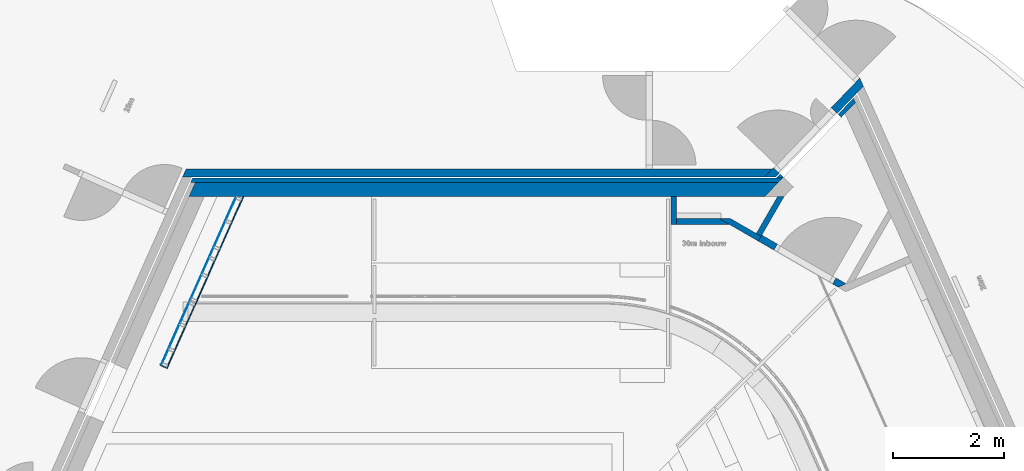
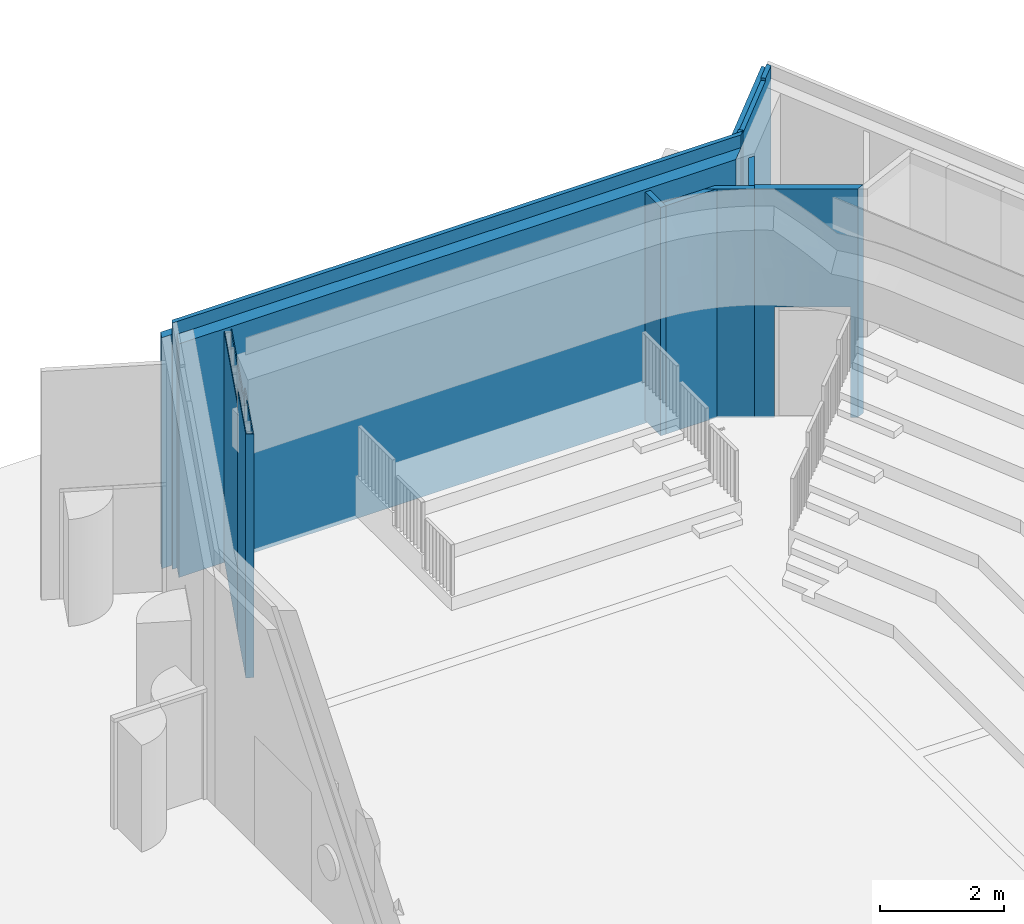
# One storey, part 10 of 19: 17 walls, 9 openings.
"""IFC2X3 building model written with IfcOpenShell, lengths in millimetres."""

import ifcopenshell
import ifcopenshell.guid

model = None  # the IFC model being written
_history = None  # IfcOwnerHistory: only IFC2X3 demands one
_inside = {}  # id of a spatial element -> (the spatial element, [elements in it])
_under = {}  # id of a project, library or spatial element -> (it, [spatial elements below it])
_declared = {}  # id of a project -> (the project, [libraries it declares])
_typed = {}  # id of a type object -> (the type object, [elements of that type])
_made_of = {}  # id of a material, layer set ... -> (it, [elements and type objects made of it])


def new_model(schema):
    """Start an empty IFC model of exactly this schema.

    Asked for "IFC4X3", IfcOpenShell would pick the latest addendum, in which some entities
    have other attributes; the version numbers below select the first issue.
    IFC2X3 requires an IfcOwnerHistory on every rooted entity: one is made here for all.
    """
    global model, _history
    if schema == "IFC4X3":
        model = ifcopenshell.file(schema_version=(4, 3, 0, 0))
    else:
        model = ifcopenshell.file(schema=schema)
    _inside.clear()
    _under.clear()
    _declared.clear()
    _typed.clear()
    _made_of.clear()
    _history = None
    if model.schema == "IFC2X3":
        org = make("IfcOrganization", Name="unknown")
        user = make(
            "IfcPersonAndOrganization",
            ThePerson=make("IfcPerson", FamilyName="unknown"),
            TheOrganization=org,
        )
        app = make(
            "IfcApplication",
            ApplicationDeveloper=org,
            Version="unknown",
            ApplicationFullName="unknown",
            ApplicationIdentifier="unknown",
        )
        _history = make(
            "IfcOwnerHistory",
            OwningUser=user,
            OwningApplication=app,
            ChangeAction="ADDED",
            CreationDate=0,
        )
    return model


def make(cls, **values):
    """One entity of the class cls with the attributes given. An attribute that is None is left unset."""
    return model.create_entity(
        cls, **{name: value for name, value in values.items() if value is not None}
    )


def entity(cls, *values):
    """Any entity or typed value of the class cls, its attributes in the order of the schema. None: left unset."""
    e = model.create_entity(cls)
    for i, value in enumerate(values):
        if value is not None:
            e[i] = value
    return e


def rooted(cls, **values):
    """An entity with a GlobalId (a new one), such as an element, a storey or a relation."""
    return make(cls, GlobalId=ifcopenshell.guid.new(), OwnerHistory=_history, **values)


def si_unit(unit_type, name, prefix=None):
    """IfcSIUnit, for example si_unit("LENGTHUNIT", "METRE", prefix="MILLI")."""
    return make("IfcSIUnit", UnitType=unit_type, Prefix=prefix, Name=name)


def converted_unit(unit_type, name, factor, base, dimensions=None, offset=None):
    """IfcConversionBasedUnit, such as the inch: factor (a typed value) times the base unit."""
    return make(
        "IfcConversionBasedUnit"
        if offset is None
        else "IfcConversionBasedUnitWithOffset",
        ConversionOffset=offset,
        Dimensions=None
        if dimensions is None
        else entity("IfcDimensionalExponents", *dimensions),
        UnitType=unit_type,
        Name=name,
        ConversionFactor=make(
            "IfcMeasureWithUnit", ValueComponent=factor, UnitComponent=base
        ),
    )


def derived_unit(unit_type, elements):
    """IfcDerivedUnit: a product of units, each with its exponent."""
    return make(
        "IfcDerivedUnit",
        Elements=[
            make("IfcDerivedUnitElement", Unit=unit, Exponent=power)
            for unit, power in elements
        ],
        UnitType=unit_type,
    )


def assignment(units):
    """IfcUnitAssignment: the units of a project."""
    return None if units is None else make("IfcUnitAssignment", Units=units)


def point(xyz):
    """IfcCartesianPoint."""
    return None if xyz is None else make("IfcCartesianPoint", Coordinates=xyz)


def direction(xyz):
    """IfcDirection."""
    return None if xyz is None else make("IfcDirection", DirectionRatios=xyz)


def frame(location, z_axis=None, x_axis=None):
    """IfcAxis2Placement3D, a coordinate frame: its origin and axes. An axis left out is left unset."""
    return make(
        "IfcAxis2Placement3D",
        Location=point(location),
        Axis=direction(z_axis),
        RefDirection=direction(x_axis),
    )


def frame_2d(location, x_axis=None):
    """IfcAxis2Placement2D, a coordinate frame in the plane: its origin and x axis."""
    return make(
        "IfcAxis2Placement2D", Location=point(location), RefDirection=direction(x_axis)
    )


def origin():
    """The frame at (0, 0, 0) with its axes left unset."""
    return frame((0.0, 0.0, 0.0))


def origin_2d_with_axis():
    """The frame at (0, 0) in the plane with the x axis (1, 0) written out."""
    return frame_2d((0.0, 0.0), x_axis=(1.0, 0.0))


def place(relative_to, where):
    """IfcLocalPlacement: puts the frame where relative to a parent placement (None: the world)."""
    return make(
        "IfcLocalPlacement", PlacementRelTo=relative_to, RelativePlacement=where
    )


def context(
    kind, dimensions, precision=None, world=None, true_north=None, identifier=None
):
    """IfcGeometricRepresentationContext, for example the 3D "Model" context."""
    return make(
        "IfcGeometricRepresentationContext",
        ContextIdentifier=identifier,
        ContextType=kind,
        CoordinateSpaceDimension=dimensions,
        Precision=precision,
        WorldCoordinateSystem=world,
        TrueNorth=true_north,
    )


def subcontext(parent, identifier, kind, view, scale=None):
    """IfcGeometricRepresentationSubContext, for example "Body" below "Model"."""
    return make(
        "IfcGeometricRepresentationSubContext",
        ContextIdentifier=identifier,
        ContextType=kind,
        ParentContext=parent,
        TargetScale=scale,
        TargetView=view,
    )


def project(units=None, contexts=None):
    """IfcProject with its units and contexts."""
    return rooted(
        "IfcProject",
        Name="project",
        RepresentationContexts=contexts,
        UnitsInContext=assignment(units),
    )


def spatial(cls, under=None, at=None, **own):
    """A site, building, storey or space (cls), placed at a placement, below another one or the project."""
    s = rooted(cls, ObjectPlacement=at, **own)
    if under is not None:
        _under.setdefault(under.id(), (under, []))[1].append(s)
    return s


def polyline(points):
    """IfcPolyline through the points."""
    return make("IfcPolyline", Points=[point(p) for p in points])


def profile(cls, at=None, kind="AREA", **sizes):
    """A parametric profile (cls). Its sizes go by their IFC names, for example OverallWidth=200.0."""
    return make(cls, ProfileType=kind, Position=at, **sizes)


def rectangle(**sizes):
    """IfcRectangleProfileDef."""
    return profile("IfcRectangleProfileDef", **sizes)


def outline(outer, holes=None, kind="AREA"):
    """IfcArbitraryClosedProfileDef: a profile drawn as a closed curve; with holes, ...WithVoids."""
    if holes is None:
        return make("IfcArbitraryClosedProfileDef", ProfileType=kind, OuterCurve=outer)
    return make(
        "IfcArbitraryProfileDefWithVoids",
        ProfileType=kind,
        OuterCurve=outer,
        InnerCurves=holes,
    )


def extrude(swept, where, along, depth):
    """IfcExtrudedAreaSolid: the profile swept, set in the frame where, extruded along a direction by depth."""
    return make(
        "IfcExtrudedAreaSolid",
        SweptArea=swept,
        Position=where,
        ExtrudedDirection=direction(along),
        Depth=depth,
    )


def clip(a, b, op="DIFFERENCE"):
    """IfcBooleanClippingResult: the solid a cut by the half space b."""
    return make(
        "IfcBooleanClippingResult", Operator=op, FirstOperand=a, SecondOperand=b
    )


def halfspace(plane, agree):
    """IfcHalfSpaceSolid: all space on one side of the plane z = 0 of the frame plane."""
    return make(
        "IfcHalfSpaceSolid",
        BaseSurface=make("IfcPlane", Position=plane),
        AgreementFlag=agree,
    )


def faces_of(points, faces, orient=None, outer=None):
    """IfcFace entities. A face is a list of loops; a loop is a list of indices into points, from 0.

    orient and outer hold one flag for each loop. By default every Orientation is true, the
    first loop of a face is its IfcFaceOuterBound and the others are IfcFaceBound.
    """
    made = []
    for i, loops in enumerate(faces):
        bounds = []
        for j, loop in enumerate(loops):
            is_outer = j == 0 if outer is None else outer[i][j]
            bounds.append(
                make(
                    "IfcFaceOuterBound" if is_outer else "IfcFaceBound",
                    Bound=make("IfcPolyLoop", Polygon=[points[k] for k in loop]),
                    Orientation=True if orient is None else orient[i][j],
                )
            )
        made.append(make("IfcFace", Bounds=bounds))
    return made


def faceted_brep(points, faces, orient=None, outer=None, voids=None):
    """IfcFacetedBrep: a solid bounded by flat faces; with voids (closed shells), ...WithVoids."""
    shared = [point(p) for p in points]
    hull = make("IfcClosedShell", CfsFaces=faces_of(shared, faces, orient, outer))
    if voids is None:
        return make("IfcFacetedBrep", Outer=hull)
    return make(
        "IfcFacetedBrepWithVoids",
        Outer=hull,
        Voids=[
            make(cls, CfsFaces=faces_of(shared, fs, o, b)) for cls, fs, o, b in voids
        ],
    )


def shape(context_of_items, identifier, shape_type, items):
    """IfcShapeRepresentation: the items that make up one representation, for example the "Body"."""
    return make(
        "IfcShapeRepresentation",
        ContextOfItems=context_of_items,
        RepresentationIdentifier=identifier,
        RepresentationType=shape_type,
        Items=items,
    )


def material(Name=None, Category=None):
    """IfcMaterial."""
    return make("IfcMaterial", Name=Name, Category=Category)


def layer(
    of_material, thickness, ventilated=None, Name=None, Category=None, Priority=None
):
    """IfcMaterialLayer: one layer of a wall or slab, of a material (None: an air gap)."""
    return make(
        "IfcMaterialLayer",
        Material=of_material,
        LayerThickness=thickness,
        IsVentilated=ventilated,
        Name=Name,
        Category=Category,
        Priority=Priority,
    )


def layer_set(layers, Name=None):
    """IfcMaterialLayerSet."""
    return make("IfcMaterialLayerSet", MaterialLayers=layers, LayerSetName=Name)


def layer_usage(for_layer_set, set_direction, sense, offset, extent=None):
    """IfcMaterialLayerSetUsage: how a layer set lies in its element."""
    return make(
        "IfcMaterialLayerSetUsage",
        ForLayerSet=for_layer_set,
        LayerSetDirection=set_direction,
        DirectionSense=sense,
        OffsetFromReferenceLine=offset,
        ReferenceExtent=extent,
    )


def made_of(thing, what):
    """Note that an element or type object is made of a material, layer set ...; save() writes the relation."""
    if what is not None:
        _made_of.setdefault(what.id(), (what, []))[1].append(thing)
    return thing


def type_object(cls, material=None, **own):
    """A type object (cls), such as IfcWallType, which elements share."""
    return made_of(rooted(cls, **own), material)


def element(
    cls,
    number,
    at=None,
    inside=None,
    cuts=None,
    type_object=None,
    material=None,
    context=None,
    identifier="Body",
    shape_type=None,
    held_by="IfcProductDefinitionShape",
    body=None,
    shapes=None,
    **own,
):
    """One element of the class cls, such as IfcWall. Its Tag is "e" and its number.

    at: its placement. inside: the storey or other place that contains it. cuts: it is an
    opening in that element (IfcRelVoidsElement). A single representation is given by context,
    identifier, shape_type and body (its items); several are given by shapes. held_by: the class
    of the entity that holds the representations. save() writes the other relations.
    """
    e = rooted(cls, Tag="e%d" % number, ObjectPlacement=at, **own)
    if body is not None:
        shapes = [shape(context, identifier, shape_type, body)]
    if shapes is not None:
        e.Representation = make(held_by, Representations=shapes)
    if inside is not None:
        _inside.setdefault(inside.id(), (inside, []))[1].append(e)
    if cuts is not None:
        rooted(
            "IfcRelVoidsElement", RelatingBuildingElement=cuts, RelatedOpeningElement=e
        )
    if type_object is not None:
        _typed.setdefault(type_object.id(), (type_object, []))[1].append(e)
    return made_of(e, material)


def aggregate(whole, parts):
    """IfcRelAggregates: a whole, such as a stair, and the parts it consists of."""
    return rooted("IfcRelAggregates", RelatingObject=whole, RelatedObjects=parts)


def save(model, path):
    """Write the relations noted so far, then the file.

    IfcRelAggregates (storeys below a building ...), IfcRelContainedInSpatialStructure (elements
    in a storey), IfcRelDefinesByType, IfcRelAssociatesMaterial and IfcRelDeclares: one each for
    every whole, place, type object, material and project.
    """
    for whole, parts in _under.values():
        aggregate(whole, parts)
    for where, things in _inside.values():
        rooted(
            "IfcRelContainedInSpatialStructure",
            RelatedElements=things,
            RelatingStructure=where,
        )
    for kind, things in _typed.values():
        rooted("IfcRelDefinesByType", RelatedObjects=things, RelatingType=kind)
    for what, things in _made_of.values():
        rooted("IfcRelAssociatesMaterial", RelatedObjects=things, RelatingMaterial=what)
    for by, libraries in _declared.values():
        rooted("IfcRelDeclares", RelatingContext=by, RelatedDefinitions=libraries)
    model.write(path)


model = new_model("IFC2X3")

# Units and contexts
model_context = context("Model", 3, precision=0.01, world=origin(), true_north=direction((6.123031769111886e-17, 1.0)))
body_context = subcontext(model_context, "Body", "Model", "MODEL_VIEW")
ifc_project = project(units=[si_unit("LENGTHUNIT", "METRE", prefix="MILLI"), si_unit("AREAUNIT", "SQUARE_METRE"), si_unit("VOLUMEUNIT", "CUBIC_METRE"), converted_unit("PLANEANGLEUNIT", "DEGREE", entity("IfcRatioMeasure", 0.017453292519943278), si_unit("PLANEANGLEUNIT", "RADIAN"), dimensions=[0, 0, 0, 0, 0, 0, 0]), si_unit("MASSUNIT", "GRAM", prefix="KILO"), derived_unit("MASSDENSITYUNIT", [(si_unit("MASSUNIT", "GRAM", prefix="KILO"), 1), (si_unit("LENGTHUNIT", "METRE"), -3)]), derived_unit("MOMENTOFINERTIAUNIT", [(si_unit("LENGTHUNIT", "METRE"), 4)]), si_unit("TIMEUNIT", "SECOND"), si_unit("FREQUENCYUNIT", "HERTZ"), si_unit("THERMODYNAMICTEMPERATUREUNIT", "DEGREE_CELSIUS"), derived_unit("THERMALTRANSMITTANCEUNIT", [(si_unit("MASSUNIT", "GRAM", prefix="KILO"), 1), (si_unit("THERMODYNAMICTEMPERATUREUNIT", "KELVIN"), -1), (si_unit("TIMEUNIT", "SECOND"), -3)]), derived_unit("VOLUMETRICFLOWRATEUNIT", [(si_unit("LENGTHUNIT", "METRE"), 3), (si_unit("TIMEUNIT", "SECOND"), -1)]), derived_unit("MASSFLOWRATEUNIT", [(si_unit("MASSUNIT", "GRAM", prefix="KILO"), 1), (si_unit("TIMEUNIT", "SECOND"), -1)]), derived_unit("ROTATIONALFREQUENCYUNIT", [(si_unit("TIMEUNIT", "SECOND"), -1)]), si_unit("ELECTRICCURRENTUNIT", "AMPERE"), si_unit("ELECTRICVOLTAGEUNIT", "VOLT"), si_unit("POWERUNIT", "WATT"), si_unit("FORCEUNIT", "NEWTON", prefix="KILO"), si_unit("ILLUMINANCEUNIT", "LUX"), si_unit("LUMINOUSFLUXUNIT", "LUMEN"), si_unit("LUMINOUSINTENSITYUNIT", "CANDELA"), derived_unit("USERDEFINED", [(si_unit("MASSUNIT", "GRAM", prefix="KILO"), -1), (si_unit("LENGTHUNIT", "METRE"), -2), (si_unit("TIMEUNIT", "SECOND"), 3), (si_unit("LUMINOUSFLUXUNIT", "LUMEN"), 1)]), derived_unit("SOUNDPOWERUNIT", [(si_unit("MASSUNIT", "GRAM", prefix="KILO"), 1), (si_unit("LENGTHUNIT", "METRE"), 2), (si_unit("TIMEUNIT", "SECOND"), -3)]), derived_unit("SOUNDPRESSUREUNIT", [(si_unit("MASSUNIT", "GRAM", prefix="KILO"), 1), (si_unit("LENGTHUNIT", "METRE"), -1), (si_unit("TIMEUNIT", "SECOND"), -2)]), derived_unit("LINEARVELOCITYUNIT", [(si_unit("LENGTHUNIT", "METRE"), 1), (si_unit("TIMEUNIT", "SECOND"), -1)]), si_unit("PRESSUREUNIT", "PASCAL"), derived_unit("USERDEFINED", [(si_unit("LENGTHUNIT", "METRE"), -2), (si_unit("MASSUNIT", "GRAM", prefix="KILO"), 1), (si_unit("TIMEUNIT", "SECOND"), -2)]), derived_unit("LINEARFORCEUNIT", [(si_unit("MASSUNIT", "GRAM", prefix="KILO"), 1), (si_unit("LENGTHUNIT", "METRE"), 1), (si_unit("TIMEUNIT", "SECOND"), -2), (si_unit("LENGTHUNIT", "METRE"), -1)]), derived_unit("PLANARFORCEUNIT", [(si_unit("MASSUNIT", "GRAM", prefix="KILO"), 1), (si_unit("LENGTHUNIT", "METRE"), 1), (si_unit("TIMEUNIT", "SECOND"), -2), (si_unit("LENGTHUNIT", "METRE"), -2)])], contexts=[model_context])

# Site, building, storey
site_placement = place(None, frame((-10000.0, -10000.0, 0.0)))
site = spatial("IfcSite", under=ifc_project, at=site_placement, Name="Default", CompositionType="ELEMENT")
building_placement = place(site_placement, origin())
building = spatial("IfcBuilding", under=site, at=building_placement, CompositionType="ELEMENT")
storey_placement = place(building_placement, frame((0.0, 0.0, 4200.0)))
storey = spatial("IfcBuildingStorey", under=building, at=storey_placement, Name="01 1e verdieping", CompositionType="ELEMENT", Elevation=4200.000000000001)

# Wall
ifc_material_1 = material(Name="NLRS_beton ihwg")
ifc_layer_1 = layer(ifc_material_1, 250.00000000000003)
ifc_layer_set_1 = layer_set([ifc_layer_1], Name="Basic Wall:NLRS_21_WA_beton 250mm_ags")
ifc_layer_usage_1 = layer_usage(ifc_layer_set_1, "AXIS2", "NEGATIVE", 125.00000000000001)
wall_type_1 = type_object("IfcWallType", Name="Basic Wall:NLRS_21_WA_beton 250mm_ags", PredefinedType="STANDARD", material=ifc_layer_set_1)
wall_1_placement = place(storey_placement, frame((28023.813445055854, 49277.0, -50.0)))
element("IfcWallStandardCase", 1, at=wall_1_placement, inside=storey, type_object=wall_type_1, material=ifc_layer_usage_1, Name="Basic Wall:NLRS_21_WA_beton 250mm_ags", ObjectType="Basic Wall:NLRS_21_WA_beton 250mm_ags", context=body_context, shape_type="SweptSolid", body=[
    extrude(outline(polyline([(10375.04271520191, -125.0), (10616.272859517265, 125.0), (111.30717132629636, 125.0), (0.0, -125.0), (273.65906962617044, -125.0), (10375.04271520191, -125.0)])), origin(), (0.0, 0.0, 1.0), 4599.999999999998),
])

# Wall, opening
ifc_material_2 = material(Name="NLRS_kalkzandsteen")
ifc_layer_2 = layer(ifc_material_2, 150.0)
ifc_layer_set_2 = layer_set([ifc_layer_2], Name="Basic Wall:NLRS_22_WA_kalkzandsteen 150mm_ags")
ifc_layer_usage_2 = layer_usage(ifc_layer_set_2, "AXIS2", "NEGATIVE", 75.0)
wall_type_2 = type_object("IfcWallType", Name="Basic Wall:NLRS_22_WA_kalkzandsteen 150mm_ags", PredefinedType="STANDARD", material=ifc_layer_set_2)
wall_2_placement = place(storey_placement, frame((27905.984415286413, 49577.0, -50.0)))
wall_2 = element("IfcWallStandardCase", 2, at=wall_2_placement, inside=storey, type_object=wall_type_2, material=ifc_layer_usage_2, Name="Basic Wall:NLRS_22_WA_kalkzandsteen 150mm_ags", ObjectType="Basic Wall:NLRS_22_WA_kalkzandsteen 150mm_ags", context=body_context, shape_type="SweptSolid", body=[
    extrude(outline(polyline([(10483.29713118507, -75.0), (10628.035217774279, 75.0), (66.78430279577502, 75.0), (0.0, -75.0), (164.19544177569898, -75.0), (10483.29713118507, -75.0)])), origin(), (0.0, 0.0, 1.0), 4549.999999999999),
])
opening_1_placement = place(wall_2_placement, frame((10828.260893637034, -258.00997500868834, 0.0)))
element("IfcOpeningElement", 3, at=opening_1_placement, cuts=wall_2, Name="Basic Wall:NLRS_22_WA_kalkzandsteen 150mm_ags", ObjectType="Opening", context=body_context, shape_type="Brep", body=[
    faceted_brep([(187.1574804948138, 0.0, 2220.0), (1225.7189008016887, 1076.3180356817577, 2220.0), (1111.6089162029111, 1332.6132573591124, 2220.0), (0.0, 180.59210411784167, 2220.0), (187.1574804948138, 0.0, 0.0), (0.0, 180.59210411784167, 0.0), (1111.6089162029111, 1332.6132573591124, 0.0), (1225.7189008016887, 1076.3180356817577, 0.0)], [[[0, 1, 2, 3]], [[4, 5, 6, 7]], [[1, 0, 4, 7]], [[2, 1, 7, 6]], [[3, 2, 6, 5]], [[0, 3, 5, 4]]]),
])

# Wall, openings
ifc_layer_usage_3 = layer_usage(ifc_layer_set_2, "AXIS2", "NEGATIVE", 75.0)
wall_3_placement = place(storey_placement, frame((38443.25274487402, 49449.92208008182, -50.0), z_axis=(0.0, 0.0, 1.0), x_axis=(0.6943722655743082, 0.7196159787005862, 0.0)))
wall_3 = element("IfcWallStandardCase", 4, at=wall_3_placement, inside=storey, type_object=wall_type_2, material=ifc_layer_usage_3, Name="Basic Wall:NLRS_22_WA_kalkzandsteen 150mm_ags", ObjectType="Basic Wall:NLRS_22_WA_kalkzandsteen 150mm_ags", context=body_context, shape_type="SweptSolid", body=[
    extrude(outline(polyline([(144.73808658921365, -75.0), (2256.64107445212, -75.0), (2418.447295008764, -75.0), (2479.1206253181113, 75.0), (208.4445099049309, 75.0), (0.0, 75.0), (144.73808658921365, -75.0)])), origin(), (0.0, 0.0, 1.0), 4549.999999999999),
])
opening_2_placement = place(wall_3_placement, origin())
element("IfcOpeningElement", 5, at=opening_2_placement, cuts=wall_3, Name="Basic Wall:NLRS_22_WA_kalkzandsteen 150mm_ags", ObjectType="Opening", context=body_context, shape_type="SweptSolid", body=[
    extrude(rectangle(XDim=2220.0, YDim=1499.7610140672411, at=origin_2d_with_axis()), frame((987.6738377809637, -75.0, 1110.0), z_axis=(0.0, 1.0, 0.0), x_axis=(0.0, 0.0, -1.0)), (0.0, 0.0, 1.0), 150.00000000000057),
])
opening_3_placement = place(wall_3_placement, origin())
element("IfcOpeningElement", 6, at=opening_3_placement, cuts=wall_3, Name="Basic Wall:NLRS_22_WA_kalkzandsteen 150mm_ags", ObjectType="Opening", context=body_context, shape_type="SweptSolid", body=[
    extrude(rectangle(XDim=2220.0, YDim=1499.7610140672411, at=frame_2d((-1.1368683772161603e-12, 0.0), x_axis=(1.0, 0.0))), frame((987.6738377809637, -75.0, 5910.0), z_axis=(0.0, 1.0, 0.0), x_axis=(0.0, 0.0, -1.0)), (0.0, 0.0, 1.0), 150.00000000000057),
])
opening_4_placement = place(wall_3_placement, origin())
element("IfcOpeningElement", 7, at=opening_4_placement, cuts=wall_3, Name="Basic Wall:NLRS_22_WA_kalkzandsteen 150mm_ags", ObjectType="Opening", context=body_context, shape_type="SweptSolid", body=[
    extrude(rectangle(XDim=2170.0, YDim=1499.7610140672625, at=frame_2d((2.2737367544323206e-13, -4.661160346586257e-12), x_axis=(1.0, 0.0))), frame((987.6738377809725, -227.4000000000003, 1135.0), z_axis=(0.0, 1.0, 0.0), x_axis=(0.0, 0.0, 1.0)), (0.0, 0.0, 1.0), 454.79999999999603),
])
opening_5_placement = place(wall_3_placement, frame((107.8363669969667, -300.31848650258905, 0.0)))
element("IfcOpeningElement", 8, at=opening_5_placement, cuts=wall_3, Name="Basic Wall:NLRS_22_WA_kalkzandsteen 150mm_ags", ObjectType="Opening", context=body_context, shape_type="Brep", body=[
    faceted_brep([(129.95696375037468, -134.68151349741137, 2220.0), (1625.6408667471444, -134.68151349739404, 2220.0), (1730.840195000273, 125.39814848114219, 2220.0), (129.95696375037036, 125.39814848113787, 2220.0), (129.95696375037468, -134.68151349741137, 0.0), (129.95696375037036, 125.39814848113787, 0.0), (1730.840195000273, 125.39814848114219, 0.0), (1625.6408667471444, -134.68151349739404, 0.0)], [[[0, 1, 2, 3]], [[4, 5, 6, 7]], [[1, 0, 4, 7]], [[2, 1, 7, 6]], [[3, 2, 6, 5]], [[0, 3, 5, 4]]]),
])

# Wall, opening
ifc_material_3 = material(Name="NLRS_MDF")
ifc_layer_3 = layer(ifc_material_3, 12.5)
ifc_material_4 = material(Name="NLRS_gipsplaat")
ifc_layer_4 = layer(ifc_material_4, 12.5)
ifc_material_5 = material(Name="NLRS_aluminium C-profielen met isolatie")
ifc_layer_5 = layer(ifc_material_5, 75.0)
ifc_layer_6 = layer(ifc_material_4, 12.5)
ifc_layer_7 = layer(ifc_material_4, 12.5)
ifc_layer_set_3 = layer_set([ifc_layer_3, ifc_layer_4, ifc_layer_5, ifc_layer_6, ifc_layer_7], Name="Basic Wall:NLRS_22_WA_ms-wand mdf gips iso gips gips 125mm 25-75-25_ags")
ifc_layer_usage_4 = layer_usage(ifc_layer_set_3, "AXIS2", "NEGATIVE", 62.50000000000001)
wall_type_3 = type_object("IfcWallType", Name="Basic Wall:NLRS_22_WA_ms-wand mdf gips iso gips gips 125mm 25-75-25_ags", PredefinedType="STANDARD", material=ifc_layer_set_3)
wall_4_placement = place(storey_placement, frame((39834.41528747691, 47524.899549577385, 0.0), z_axis=(0.0, 0.0, 1.0), x_axis=(-0.8660254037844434, 0.4999999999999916, 0.0)))
wall_4 = element("IfcWallStandardCase", 9, at=wall_4_placement, inside=storey, type_object=wall_type_3, material=ifc_layer_usage_4, Name="Basic Wall:NLRS_22_WA_ms-wand mdf gips iso gips gips 125mm 25-75-25_ags", ObjectType="Basic Wall:NLRS_22_WA_ms-wand mdf gips iso gips gips 125mm 25-75-25_ags", context=body_context, shape_type="SweptSolid", body=[
    extrude(outline(polyline([(0.0, -62.4999999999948), (1755.9171632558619, -62.499999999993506), (1755.9171632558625, 62.50000000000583), (90.84019254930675, 62.50000000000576), (0.0, -62.4999999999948)])), origin(), (0.0, 0.0, 1.0), 4499.999999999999),
])
opening_6_placement = place(wall_4_placement, origin())
element("IfcOpeningElement", 10, at=opening_6_placement, cuts=wall_4, Name="Basic Wall:NLRS_22_WA_ms-wand mdf gips iso gips gips 125mm 25-75-25_ags", ObjectType="Opening", context=body_context, shape_type="SweptSolid", body=[
    extrude(rectangle(XDim=2170.0, YDim=1219.9999999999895, at=frame_2d((0.0, 2.2737367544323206e-13), x_axis=(0.0, 1.0))), frame((820.917163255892, -214.89999999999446, 1085.0), z_axis=(0.0, 1.0, 0.0), x_axis=(-1.0, 0.0, 0.0)), (0.0, 0.0, 1.0), 429.80000000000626),
])

# Walls
ifc_layer_8 = layer(ifc_material_3, 12.5)
ifc_layer_9 = layer(ifc_material_4, 12.5)
ifc_layer_10 = layer(ifc_material_5, 75.0)
ifc_layer_set_4 = layer_set([ifc_layer_8, ifc_layer_9, ifc_layer_10], Name="Basic Wall:NLRS_22_WA_ms-wand mdf gips iso 100mm 25-75_ags")
ifc_layer_usage_5 = layer_usage(ifc_layer_set_4, "AXIS2", "POSITIVE", -50.0)
wall_type_4 = type_object("IfcWallType", Name="Basic Wall:NLRS_22_WA_ms-wand mdf gips iso 100mm 25-75_ags", PredefinedType="STANDARD", material=ifc_layer_set_4)
wall_5_placement = place(storey_placement, frame((37609.014961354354, 48795.30127018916, 0.0), z_axis=(0.0, 0.0, 1.0), x_axis=(0.8660254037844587, -0.4999999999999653, 0.0)))
element("IfcWallStandardCase", 11, at=wall_5_placement, inside=storey, type_object=wall_type_4, material=ifc_layer_usage_5, Name="Basic Wall:NLRS_22_WA_ms-wand mdf gips iso 100mm 25-75_ags", ObjectType="Basic Wall:NLRS_22_WA_ms-wand mdf gips iso 100mm 25-75_ags", context=body_context, shape_type="SweptSolid", body=[
    extrude(outline(polyline([(806.53691306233, -50.0), (806.5369130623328, 50.0), (706.5369130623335, 50.0), (173.20508075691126, 50.0), (0.0, -50.0), (200.0, -50.0), (806.53691306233, -50.0)])), origin(), (0.0, 0.0, 1.0), 4499.999999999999),
])
ifc_layer_usage_6 = layer_usage(ifc_layer_set_4, "AXIS2", "NEGATIVE", 50.0)
wall_6_placement = place(storey_placement, frame((36760.0, 48652.0, 0.0), z_axis=(0.0, 0.0, 1.0), x_axis=(0.0, 1.0, 0.0)))
element("IfcWallStandardCase", 12, at=wall_6_placement, inside=storey, type_object=wall_type_4, material=ifc_layer_usage_6, Name="Basic Wall:NLRS_22_WA_ms-wand mdf gips iso 100mm 25-75_ags", ObjectType="Basic Wall:NLRS_22_WA_ms-wand mdf gips iso 100mm 25-75_ags", context=body_context, shape_type="SweptSolid", body=[
    extrude(rectangle(XDim=499.999999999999, YDim=99.99999999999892, at=frame_2d((249.9999999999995, 2.1671553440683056e-12), x_axis=(-1.0, 0.0))), origin(), (0.0, 0.0, 1.0), 4499.999999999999),
])
ifc_layer_usage_7 = layer_usage(ifc_layer_set_4, "AXIS2", "NEGATIVE", 50.0)
wall_7_placement = place(storey_placement, frame((37757.22004211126, 48702.0, 0.0), z_axis=(0.0, 0.0, 1.0), x_axis=(-1.0, 0.0, 0.0)))
element("IfcWallStandardCase", 13, at=wall_7_placement, inside=storey, type_object=wall_type_4, material=ifc_layer_usage_7, Name="Basic Wall:NLRS_22_WA_ms-wand mdf gips iso 100mm 25-75_ags", ObjectType="Basic Wall:NLRS_22_WA_ms-wand mdf gips iso 100mm 25-75_ags", context=body_context, shape_type="SweptSolid", body=[
    extrude(outline(polyline([(947.2200421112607, -50.0), (947.2200421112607, 50.0), (0.0, 50.0), (173.20508075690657, -50.0), (947.2200421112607, -50.0)])), origin(), (0.0, 0.0, 1.0), 4499.999999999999),
])
ifc_layer_11 = layer(ifc_material_4, 12.5)
ifc_layer_12 = layer(ifc_material_4, 12.5)
ifc_layer_13 = layer(ifc_material_5, 75.0)
ifc_layer_set_5 = layer_set([ifc_layer_11, ifc_layer_12, ifc_layer_13], Name="Basic Wall:NLRS_22_WA_ms-wand gips iso 100mm 25-75_ags")
ifc_layer_usage_8 = layer_usage(ifc_layer_set_5, "AXIS2", "NEGATIVE", 50.0)
wall_type_5 = type_object("IfcWallType", Name="Basic Wall:NLRS_22_WA_ms-wand gips iso 100mm 25-75_ags", PredefinedType="STANDARD", material=ifc_layer_set_5)
wall_8_placement = place(storey_placement, frame((38702.96240657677, 49177.0, 0.0), z_axis=(0.0, 0.0, 1.0), x_axis=(-0.49999999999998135, -0.8660254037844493, 0.0)))
element("IfcWallStandardCase", 14, at=wall_8_placement, inside=storey, type_object=wall_type_5, material=ifc_layer_usage_8, Name="Basic Wall:NLRS_22_WA_ms-wand gips iso 100mm 25-75_ags", ObjectType="Basic Wall:NLRS_22_WA_ms-wand gips iso 100mm 25-75_ags", context=body_context, shape_type="SweptSolid", body=[
    extrude(outline(polyline([(827.5345192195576, -50.0), (827.534519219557, 50.0), (0.0, 50.0), (57.73502691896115, -50.0), (827.5345192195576, -50.0)])), origin(), (0.0, 0.0, 1.0), 4499.999999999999),
])
ifc_material_6 = material(Name="NLRS_multiplex")
ifc_layer_14 = layer(ifc_material_6, 18.0)
ifc_layer_set_6 = layer_set([ifc_layer_14], Name="Basic Wall:NLRS_42_WA_multiplex 18mm_ags")
ifc_layer_usage_9 = layer_usage(ifc_layer_set_6, "AXIS2", "POSITIVE", -9.000000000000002)
wall_type_6 = type_object("IfcWallType", Name="Basic Wall:NLRS_42_WA_multiplex 18mm_ags", PredefinedType="STANDARD", material=ifc_layer_set_6)
wall_9_placement = place(storey_placement, frame((28481.971512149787, 47985.8447163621, 0.0), z_axis=(0.0, 0.0, 1.0), x_axis=(0.406792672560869, 0.9135205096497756, 0.0)))
element("IfcWallStandardCase", 15, at=wall_9_placement, inside=storey, type_object=wall_type_6, material=ifc_layer_usage_9, Name="Basic Wall:NLRS_42_WA_multiplex 18mm_ags", ObjectType="Basic Wall:NLRS_42_WA_multiplex 18mm_ags", context=body_context, shape_type="SweptSolid", body=[
    extrude(outline(polyline([(1280.5584607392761, -9.0), (1272.5430215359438, 9.0), (0.0, 9.0), (0.0, -9.0), (1280.5584607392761, -9.0)])), origin(), (0.0, 0.0, 1.0), 4499.999999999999),
])
ifc_layer_usage_10 = layer_usage(ifc_layer_set_6, "AXIS2", "NEGATIVE", 9.000000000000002)
wall_10_placement = place(storey_placement, frame((28481.971512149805, 47985.84471636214, 0.0), z_axis=(0.0, 0.0, 1.0), x_axis=(-0.4067926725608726, -0.9135205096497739, 0.0)))
element("IfcWallStandardCase", 16, at=wall_10_placement, inside=storey, type_object=wall_type_6, material=ifc_layer_usage_10, Name="Basic Wall:NLRS_42_WA_multiplex 18mm_ags", ObjectType="Basic Wall:NLRS_42_WA_multiplex 18mm_ags", context=body_context, shape_type="SweptSolid", body=[
    extrude(rectangle(XDim=280.0000000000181, YDim=17.999999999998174, at=frame_2d((140.00000000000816, 6.52811138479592e-13), x_axis=(-1.0, 0.0))), origin(), (0.0, 0.0, 1.0), 4499.999999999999),
])
ifc_layer_usage_11 = layer_usage(ifc_layer_set_6, "AXIS2", "NEGATIVE", 9.000000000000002)
wall_11_placement = place(storey_placement, frame((28368.0843259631, 47730.0524000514, 0.0), z_axis=(0.0, 0.0, 1.0), x_axis=(-0.406792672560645, -0.9135205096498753, 0.0)))
element("IfcWallStandardCase", 17, at=wall_11_placement, inside=storey, type_object=wall_type_6, material=ifc_layer_usage_11, Name="Basic Wall:NLRS_42_WA_multiplex 18mm_ags", ObjectType="Basic Wall:NLRS_42_WA_multiplex 18mm_ags", context=body_context, shape_type="SweptSolid", body=[
    extrude(rectangle(XDim=540.0000000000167, YDim=18.000000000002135, at=frame_2d((270.00000000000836, -7.265299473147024e-13), x_axis=(-1.0, 0.0))), origin(), (0.0, 0.0, 1.0), 4499.999999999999),
])
ifc_layer_usage_12 = layer_usage(ifc_layer_set_6, "AXIS2", "NEGATIVE", 9.000000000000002)
wall_12_placement = place(storey_placement, frame((27514.67111806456, 46113.51809799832, 0.0), z_axis=(0.0, 0.0, 1.0), x_axis=(0.9135205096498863, -0.40679267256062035, 0.0)))
element("IfcWallStandardCase", 18, at=wall_12_placement, inside=storey, type_object=wall_type_6, material=ifc_layer_usage_12, Name="Basic Wall:NLRS_42_WA_multiplex 18mm_ags", ObjectType="Basic Wall:NLRS_42_WA_multiplex 18mm_ags", context=body_context, shape_type="Clipping", body=[
    clip(extrude(rectangle(XDim=131.01615960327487, YDim=17.999999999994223, at=frame_2d((65.5080798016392, -1.9557688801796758e-12), x_axis=(-1.0, 0.0))), origin(), (0.0, 0.0, 1.0), 4800.0), halfspace(origin(), True)),
])
ifc_layer_usage_13 = layer_usage(ifc_layer_set_6, "AXIS2", "NEGATIVE", 9.000000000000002)
wall_13_placement = place(storey_placement, frame((28148.416282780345, 47236.75132484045, 0.0), z_axis=(0.0, 0.0, 1.0), x_axis=(-0.406792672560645, -0.9135205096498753, 0.0)))
element("IfcWallStandardCase", 19, at=wall_13_placement, inside=storey, type_object=wall_type_6, material=ifc_layer_usage_13, Name="Basic Wall:NLRS_42_WA_multiplex 18mm_ags", ObjectType="Basic Wall:NLRS_42_WA_multiplex 18mm_ags", context=body_context, shape_type="Clipping", body=[
    clip(extrude(rectangle(XDim=1274.8994791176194, YDim=17.99999999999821, at=frame_2d((637.4497395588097, 1.3207213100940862e-12), x_axis=(-1.0, 0.0))), origin(), (0.0, 0.0, 1.0), 4800.0), halfspace(origin(), True)),
])
ifc_layer_15 = layer(ifc_material_6, 13.000000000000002)
ifc_layer_set_7 = layer_set([ifc_layer_15], Name="Basic Wall:NLRS_42_WA_multiplex 13mm_ags")
ifc_layer_usage_14 = layer_usage(ifc_layer_set_7, "AXIS2", "NEGATIVE", 6.499999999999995)
wall_type_7 = type_object("IfcWallType", Name="Basic Wall:NLRS_42_WA_multiplex 13mm_ags", PredefinedType="STANDARD", material=ifc_layer_set_7)
wall_14_placement = place(storey_placement, frame((28876.006503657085, 49154.64415237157, 0.0), z_axis=(0.0, 0.0, 1.0), x_axis=(-0.4067926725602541, -0.9135205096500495, 0.0)))
element("IfcWallStandardCase", 20, at=wall_14_placement, inside=storey, type_object=wall_type_7, material=ifc_layer_usage_14, Name="Basic Wall:NLRS_42_WA_multiplex 13mm_ags", ObjectType="Basic Wall:NLRS_42_WA_multiplex 13mm_ags", context=body_context, shape_type="SweptSolid", body=[
    extrude(outline(polyline([(2048.0128037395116, -6.500000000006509), (2048.0128037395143, 6.499999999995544), (0.0, 6.499999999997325), (5.7889283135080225, -6.500000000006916), (2048.0128037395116, -6.500000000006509)])), origin(), (0.0, 0.0, 1.0), 4499.999999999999),
])
ifc_layer_usage_15 = layer_usage(ifc_layer_set_7, "AXIS2", "NEGATIVE", 6.499999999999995)
wall_15_placement = place(storey_placement, frame((28042.88990178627, 47283.742452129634, 0.0), z_axis=(0.0, 0.0, 1.0), x_axis=(-0.4067926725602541, -0.9135205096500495, 0.0)))
element("IfcWallStandardCase", 21, at=wall_15_placement, inside=storey, type_object=wall_type_7, material=ifc_layer_usage_15, Name="Basic Wall:NLRS_42_WA_multiplex 13mm_ags", ObjectType="Basic Wall:NLRS_42_WA_multiplex 13mm_ags", context=body_context, shape_type="Clipping", body=[
    clip(extrude(rectangle(XDim=1274.899479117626, YDim=13.000000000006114, at=frame_2d((637.4497395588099, -5.843769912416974e-12), x_axis=(-1.0, 0.0))), origin(), (0.0, 0.0, 1.0), 4800.0), halfspace(origin(), True)),
])
ifc_material_7 = material(Name="NLRS_isolatie")
ifc_layer_16 = layer(ifc_material_7, 80.0)
ifc_layer_set_8 = layer_set([ifc_layer_16], Name="Basic Wall:NLRS_21_WA_isolatie 80mm_ags")
ifc_layer_usage_16 = layer_usage(ifc_layer_set_8, "AXIS2", "NEGATIVE", 40.0)
wall_type_8 = type_object("IfcWallType", Name="Basic Wall:NLRS_21_WA_isolatie 80mm_ags", PredefinedType="STANDARD", material=ifc_layer_set_8)
wall_16_placement = place(storey_placement, frame((38717.27995075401, 49442.0, -50.0), z_axis=(0.0, 0.0, 1.0), x_axis=(-1.0, 0.0, 0.0)))
element("IfcWallStandardCase", 22, at=wall_16_placement, inside=storey, type_object=wall_type_8, material=ifc_layer_usage_16, Name="Basic Wall:NLRS_21_WA_isolatie 80mm_ags", ObjectType="Basic Wall:NLRS_21_WA_isolatie 80mm_ags", context=body_context, shape_type="Clipping", body=[
    clip(extrude(outline(polyline([(10634.111941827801, -40.0), (10669.730236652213, 40.0), (10582.159334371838, 40.0), (77.19364618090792, 40.0), (0.0, -40.0), (111.17040528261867, -40.0), (10634.111941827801, -40.0)])), origin(), (0.0, 0.0, 1.0), 4850.0), halfspace(frame((0.0, 0.0, -50.0)), True)),
])

# Wall, openings
ifc_layer_usage_17 = layer_usage(ifc_layer_set_8, "AXIS2", "NEGATIVE", 40.0)
wall_17_placement = place(storey_placement, frame((40026.79510740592, 50896.7282081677, -50.0), z_axis=(0.0, 0.0, 1.0), x_axis=(-0.6943722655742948, -0.7196159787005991, 0.0)))
wall_17 = element("IfcWallStandardCase", 23, at=wall_17_placement, inside=storey, type_object=wall_type_8, material=ifc_layer_usage_17, Name="Basic Wall:NLRS_21_WA_isolatie 80mm_ags", ObjectType="Basic Wall:NLRS_21_WA_isolatie 80mm_ags", context=body_context, shape_type="Clipping", body=[
    clip(extrude(outline(polyline([(0.0, -40.0), (2004.5456764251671, -40.0), (1927.3520302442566, 40.0), (32.35910949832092, 40.0), (0.0, -40.0)])), origin(), (0.0, 0.0, 1.0), 4850.0), halfspace(frame((0.0, 0.0, -50.0)), True)),
])
opening_7_placement = place(wall_17_placement, origin())
element("IfcOpeningElement", 24, at=opening_7_placement, cuts=wall_17, Name="Basic Wall:NLRS_21_WA_isolatie 80mm_ags", ObjectType="Opening", context=body_context, shape_type="SweptSolid", body=[
    extrude(rectangle(XDim=2220.0, YDim=1499.761014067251, at=frame_2d((0.0, -4.604316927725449e-12), x_axis=(1.0, 0.0))), frame((1153.0388679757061, -40.0, 1110.0), z_axis=(0.0, 1.0, 0.0), x_axis=(0.0, 0.0, -1.0)), (0.0, 0.0, 1.0), 79.99999999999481),
])
opening_8_placement = place(wall_17_placement, origin())
element("IfcOpeningElement", 25, at=opening_8_placement, cuts=wall_17, Name="Basic Wall:NLRS_21_WA_isolatie 80mm_ags", ObjectType="Opening", context=body_context, shape_type="SweptSolid", body=[
    extrude(rectangle(XDim=2220.0, YDim=1499.761014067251, at=frame_2d((-1.1368683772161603e-12, -4.604316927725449e-12), x_axis=(1.0, 0.0))), frame((1153.0388679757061, -40.0, 5910.0), z_axis=(0.0, 1.0, 0.0), x_axis=(0.0, 0.0, -1.0)), (0.0, 0.0, 1.0), 79.99999999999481),
])
opening_9_placement = place(wall_17_placement, frame((2032.8763387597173, 165.39814848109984, 0.0)))
element("IfcOpeningElement", 26, at=opening_9_placement, cuts=wall_17, Name="Basic Wall:NLRS_21_WA_isolatie 80mm_ags", ObjectType="Opening", context=body_context, shape_type="Brep", body=[
    faceted_brep([(-129.95696375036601, 134.6815134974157, 2220.0), (-1625.64086674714, 134.6815134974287, 2220.0), (-1730.8401950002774, -125.3981484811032, 2220.0), (-129.95696375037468, -125.39814848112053, 2220.0), (-129.95696375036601, 134.6815134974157, 0.0), (-129.95696375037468, -125.39814848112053, 0.0), (-1730.8401950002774, -125.3981484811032, 0.0), (-1625.64086674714, 134.6815134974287, 0.0)], [[[0, 1, 2, 3]], [[4, 5, 6, 7]], [[1, 0, 4, 7]], [[2, 1, 7, 6]], [[3, 2, 6, 5]], [[0, 3, 5, 4]]]),
])

save(model, "model.ifc")
